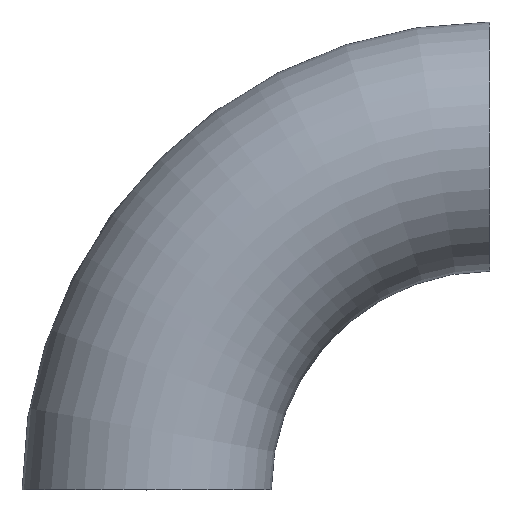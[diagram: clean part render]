
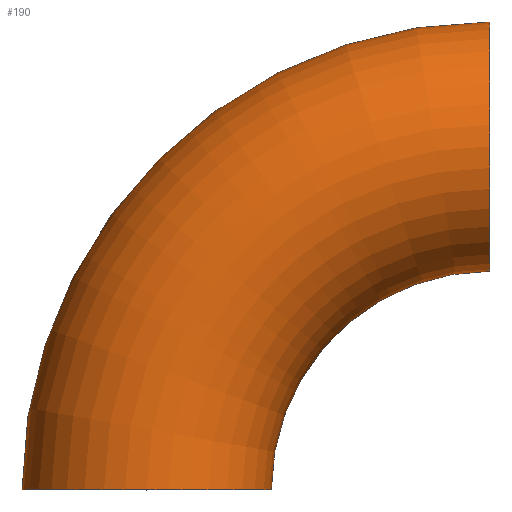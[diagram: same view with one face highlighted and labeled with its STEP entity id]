
A CAD part, top view. The second image highlights one B-rep face of the part: STEP entity #190.
In plain terms, the highlighted toroidal (fillet/blend) face has major radius 95 mm and minor radius 34.5 mm.
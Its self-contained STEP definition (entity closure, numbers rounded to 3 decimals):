
#4 = EDGE_LOOP ( 'NONE', ( #23, #99, #233, #250 ) ) ;
#13 = VERTEX_POINT ( 'NONE', #26 ) ;
#19 = EDGE_CURVE ( 'NONE', #13, #184, #117, .T. ) ;
#21 = AXIS2_PLACEMENT_3D ( 'NONE', #51, #185, #86 ) ;
#23 = ORIENTED_EDGE ( 'NONE', *, *, #234, .F. ) ;
#25 = CARTESIAN_POINT ( 'NONE',  ( 95., 0., 0. ) ) ;
#26 = CARTESIAN_POINT ( 'NONE',  ( 95., 60.5, 0. ) ) ;
#29 = TOROIDAL_SURFACE ( 'NONE', #219, 95., 34.5 ) ;
#48 = AXIS2_PLACEMENT_3D ( 'NONE', #58, #71, #202 ) ;
#50 = DIRECTION ( 'NONE',  ( 1., 0., 0. ) ) ;
#51 = CARTESIAN_POINT ( 'NONE',  ( 95., 95., 0. ) ) ;
#58 = CARTESIAN_POINT ( 'NONE',  ( 95., 0., 0. ) ) ;
#63 = FACE_OUTER_BOUND ( 'NONE', #4, .T. ) ;
#67 = EDGE_CURVE ( 'NONE', #239, #184, #169, .T. ) ;
#68 = CIRCLE ( 'NONE', #21, 34.5 ) ;
#71 = DIRECTION ( 'NONE',  ( 0., 0., 1. ) ) ;
#86 = DIRECTION ( 'NONE',  ( 0., 0., 1. ) ) ;
#98 = CARTESIAN_POINT ( 'NONE',  ( 34.5, 0., 0. ) ) ;
#99 = ORIENTED_EDGE ( 'NONE', *, *, #206, .T. ) ;
#117 = CIRCLE ( 'NONE', #189, 60.5 ) ;
#118 = DIRECTION ( 'NONE',  ( 0., 0., 1. ) ) ;
#123 = DIRECTION ( 'NONE',  ( 0., 0., 1. ) ) ;
#125 = DIRECTION ( 'NONE',  ( 1., 0., 0. ) ) ;
#137 = CARTESIAN_POINT ( 'NONE',  ( 95., 129.5, 0. ) ) ;
#140 = CARTESIAN_POINT ( 'NONE',  ( 0., 0., 0. ) ) ;
#147 = VERTEX_POINT ( 'NONE', #137 ) ;
#159 = DIRECTION ( 'NONE',  ( 0., 1., 0. ) ) ;
#169 = CIRCLE ( 'NONE', #192, 34.5 ) ;
#183 = CARTESIAN_POINT ( 'NONE',  ( -34.5, 0., 0. ) ) ;
#184 = VERTEX_POINT ( 'NONE', #98 ) ;
#185 = DIRECTION ( 'NONE',  ( 1., 0., 0. ) ) ;
#189 = AXIS2_PLACEMENT_3D ( 'NONE', #25, #240, #50 ) ;
#190 = ADVANCED_FACE ( 'NONE', ( #63 ), #29, .T. ) ;
#192 = AXIS2_PLACEMENT_3D ( 'NONE', #140, #159, #118 ) ;
#201 = CARTESIAN_POINT ( 'NONE',  ( 95., 0., 0. ) ) ;
#202 = DIRECTION ( 'NONE',  ( 1., 0., 0. ) ) ;
#206 = EDGE_CURVE ( 'NONE', #147, #239, #215, .T. ) ;
#215 = CIRCLE ( 'NONE', #48, 129.5 ) ;
#219 = AXIS2_PLACEMENT_3D ( 'NONE', #201, #123, #125 ) ;
#233 = ORIENTED_EDGE ( 'NONE', *, *, #67, .T. ) ;
#234 = EDGE_CURVE ( 'NONE', #147, #13, #68, .T. ) ;
#239 = VERTEX_POINT ( 'NONE', #183 ) ;
#240 = DIRECTION ( 'NONE',  ( 0., 0., 1. ) ) ;
#250 = ORIENTED_EDGE ( 'NONE', *, *, #19, .F. ) ;
